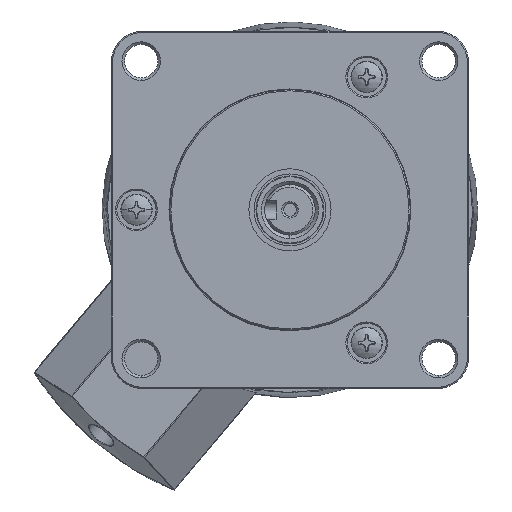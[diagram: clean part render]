
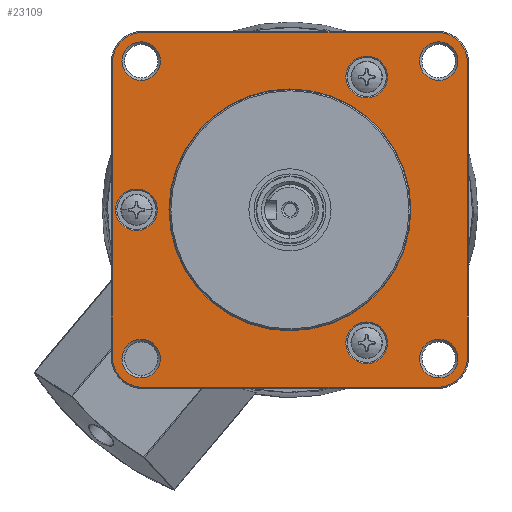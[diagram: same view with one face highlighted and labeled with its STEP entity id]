
A CAD part, left-side view. The second image highlights one B-rep face of the part: STEP entity #23109.
In plain terms, the highlighted planar face has unit normal (-1, 0, 0) as drawn and (0, 0, 1) by its records, which use the part's own axes.
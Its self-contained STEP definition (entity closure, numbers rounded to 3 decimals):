
#16756=CARTESIAN_POINT('',(-23.3,-23.3,19.));
#16757=DIRECTION('',(0.,0.,-1.));
#16758=DIRECTION('',(0.,-1.,0.));
#16759=AXIS2_PLACEMENT_3D('',#16756,#16757,#16758);
#16764=CARTESIAN_POINT('',(-23.3,23.3,19.));
#16765=DIRECTION('',(0.,0.,-1.));
#16766=DIRECTION('',(-1.,0.,0.));
#16767=AXIS2_PLACEMENT_3D('',#16764,#16765,#16766);
#16772=CARTESIAN_POINT('',(23.3,23.3,19.));
#16773=DIRECTION('',(0.,0.,-1.));
#16774=DIRECTION('',(0.,1.,0.));
#16775=AXIS2_PLACEMENT_3D('',#16772,#16773,#16774);
#16780=CARTESIAN_POINT('',(23.3,-23.3,19.));
#16781=DIRECTION('',(0.,0.,-1.));
#16782=DIRECTION('',(1.,0.,0.));
#16783=AXIS2_PLACEMENT_3D('',#16780,#16781,#16782);
#16788=CARTESIAN_POINT('',(-21.044,-12.15,19.));
#16789=DIRECTION('',(0.,0.,1.));
#16790=DIRECTION('',(-1.,0.,0.));
#16791=AXIS2_PLACEMENT_3D('',#16788,#16789,#16790);
#16796=CARTESIAN_POINT('',(-21.044,-12.15,19.));
#16797=DIRECTION('',(0.,0.,1.));
#16798=DIRECTION('',(1.,0.,0.));
#16799=AXIS2_PLACEMENT_3D('',#16796,#16797,#16798);
#16804=CARTESIAN_POINT('',(21.044,-12.15,19.));
#16805=DIRECTION('',(0.,0.,1.));
#16806=DIRECTION('',(-1.,0.,0.));
#16807=AXIS2_PLACEMENT_3D('',#16804,#16805,#16806);
#16812=CARTESIAN_POINT('',(21.044,-12.15,19.));
#16813=DIRECTION('',(0.,0.,1.));
#16814=DIRECTION('',(1.,0.,0.));
#16815=AXIS2_PLACEMENT_3D('',#16812,#16813,#16814);
#16820=CARTESIAN_POINT('',(0.,24.3,19.));
#16821=DIRECTION('',(0.,0.,1.));
#16822=DIRECTION('',(-1.,0.,0.));
#16823=AXIS2_PLACEMENT_3D('',#16820,#16821,#16822);
#16828=CARTESIAN_POINT('',(0.,24.3,19.));
#16829=DIRECTION('',(0.,0.,1.));
#16830=DIRECTION('',(1.,0.,0.));
#16831=AXIS2_PLACEMENT_3D('',#16828,#16829,#16830);
#16836=CARTESIAN_POINT('',(0.,0.,19.));
#16837=DIRECTION('',(0.,0.,1.));
#16838=DIRECTION('',(-1.,0.,0.));
#16839=AXIS2_PLACEMENT_3D('',#16836,#16837,#16838);
#16844=CARTESIAN_POINT('',(0.,0.,19.));
#16845=DIRECTION('',(0.,0.,1.));
#16846=DIRECTION('',(1.,0.,0.));
#16847=AXIS2_PLACEMENT_3D('',#16844,#16845,#16846);
#16852=CARTESIAN_POINT('',(23.55,-23.55,19.));
#16853=DIRECTION('',(0.,0.,1.));
#16854=DIRECTION('',(-1.,0.,0.));
#16855=AXIS2_PLACEMENT_3D('',#16852,#16853,#16854);
#16860=CARTESIAN_POINT('',(23.55,-23.55,19.));
#16861=DIRECTION('',(0.,0.,1.));
#16862=DIRECTION('',(1.,0.,0.));
#16863=AXIS2_PLACEMENT_3D('',#16860,#16861,#16862);
#16868=CARTESIAN_POINT('',(-23.55,-23.55,19.));
#16869=DIRECTION('',(0.,0.,1.));
#16870=DIRECTION('',(-1.,0.,0.));
#16871=AXIS2_PLACEMENT_3D('',#16868,#16869,#16870);
#16876=CARTESIAN_POINT('',(-23.55,-23.55,19.));
#16877=DIRECTION('',(0.,0.,1.));
#16878=DIRECTION('',(1.,0.,0.));
#16879=AXIS2_PLACEMENT_3D('',#16876,#16877,#16878);
#16884=CARTESIAN_POINT('',(-23.55,23.55,19.));
#16885=DIRECTION('',(0.,0.,1.));
#16886=DIRECTION('',(-1.,0.,0.));
#16887=AXIS2_PLACEMENT_3D('',#16884,#16885,#16886);
#16892=CARTESIAN_POINT('',(-23.55,23.55,19.));
#16893=DIRECTION('',(0.,0.,1.));
#16894=DIRECTION('',(1.,0.,0.));
#16895=AXIS2_PLACEMENT_3D('',#16892,#16893,#16894);
#16900=CARTESIAN_POINT('',(23.55,23.55,19.));
#16901=DIRECTION('',(0.,0.,1.));
#16902=DIRECTION('',(-1.,0.,0.));
#16903=AXIS2_PLACEMENT_3D('',#16900,#16901,#16902);
#16908=CARTESIAN_POINT('',(23.55,23.55,19.));
#16909=DIRECTION('',(0.,0.,1.));
#16910=DIRECTION('',(1.,0.,0.));
#16911=AXIS2_PLACEMENT_3D('',#16908,#16909,#16910);
#16916=DIRECTION('',(0.,-1.,0.));
#16917=VECTOR('',#16916,46.6);
#16918=CARTESIAN_POINT('',(-28.1,23.3,19.));
#16919=LINE('',#16918,#16917);
#16937=DIRECTION('',(-1.,0.,0.));
#16938=VECTOR('',#16937,46.6);
#16939=CARTESIAN_POINT('',(23.3,28.1,19.));
#16940=LINE('',#16939,#16938);
#18442=DIRECTION('',(0.,1.,0.));
#18443=VECTOR('',#18442,46.6);
#18444=CARTESIAN_POINT('',(28.1,-23.3,19.));
#18445=LINE('',#18444,#18443);
#18471=DIRECTION('',(1.,0.,0.));
#18472=VECTOR('',#18471,46.6);
#18473=CARTESIAN_POINT('',(-23.3,-28.1,19.));
#18474=LINE('',#18473,#18472);
#21963=CARTESIAN_POINT('',(-26.6,-23.55,19.));
#21964=VERTEX_POINT('',#21963);
#21965=CARTESIAN_POINT('',(-20.5,-23.55,19.));
#21966=VERTEX_POINT('',#21965);
#21967=CARTESIAN_POINT('',(-23.3,-28.1,19.));
#21968=CARTESIAN_POINT('',(-28.1,-23.3,19.));
#21969=VERTEX_POINT('',#21967);
#21970=VERTEX_POINT('',#21968);
#21971=CARTESIAN_POINT('',(-28.1,23.3,19.));
#21972=CARTESIAN_POINT('',(-23.3,28.1,19.));
#21973=VERTEX_POINT('',#21971);
#21974=VERTEX_POINT('',#21972);
#21975=CARTESIAN_POINT('',(23.3,28.1,19.));
#21976=CARTESIAN_POINT('',(28.1,23.3,19.));
#21977=VERTEX_POINT('',#21975);
#21978=VERTEX_POINT('',#21976);
#21979=CARTESIAN_POINT('',(28.1,-23.3,19.));
#21980=CARTESIAN_POINT('',(23.3,-28.1,19.));
#21981=VERTEX_POINT('',#21979);
#21982=VERTEX_POINT('',#21980);
#21983=CARTESIAN_POINT('',(-24.344,-12.15,19.));
#21984=CARTESIAN_POINT('',(-17.744,-12.15,19.));
#21985=VERTEX_POINT('',#21983);
#21986=VERTEX_POINT('',#21984);
#21987=CARTESIAN_POINT('',(17.744,-12.15,19.));
#21988=CARTESIAN_POINT('',(24.344,-12.15,19.));
#21989=VERTEX_POINT('',#21987);
#21990=VERTEX_POINT('',#21988);
#21991=CARTESIAN_POINT('',(-3.3,24.3,19.));
#21992=CARTESIAN_POINT('',(3.3,24.3,19.));
#21993=VERTEX_POINT('',#21991);
#21994=VERTEX_POINT('',#21992);
#21995=CARTESIAN_POINT('',(-19.15,0.,19.));
#21996=CARTESIAN_POINT('',(19.15,0.,19.));
#21997=VERTEX_POINT('',#21995);
#21998=VERTEX_POINT('',#21996);
#21999=CARTESIAN_POINT('',(20.5,-23.55,19.));
#22000=CARTESIAN_POINT('',(26.6,-23.55,19.));
#22001=VERTEX_POINT('',#21999);
#22002=VERTEX_POINT('',#22000);
#22003=CARTESIAN_POINT('',(-26.6,23.55,19.));
#22004=CARTESIAN_POINT('',(-20.5,23.55,19.));
#22005=VERTEX_POINT('',#22003);
#22006=VERTEX_POINT('',#22004);
#22007=CARTESIAN_POINT('',(20.5,23.55,19.));
#22008=CARTESIAN_POINT('',(26.6,23.55,19.));
#22009=VERTEX_POINT('',#22007);
#22010=VERTEX_POINT('',#22008);
#23040=CARTESIAN_POINT('',(0.,0.,19.));
#23041=DIRECTION('',(0.,0.,1.));
#23042=DIRECTION('',(1.,0.,0.));
#23043=AXIS2_PLACEMENT_3D('',#23040,#23041,#23042);
#23044=PLANE('',#23043);
#23046=ORIENTED_EDGE('',*,*,#23045,.T.);
#23048=ORIENTED_EDGE('',*,*,#23047,.F.);
#23050=ORIENTED_EDGE('',*,*,#23049,.T.);
#23052=ORIENTED_EDGE('',*,*,#23051,.F.);
#23054=ORIENTED_EDGE('',*,*,#23053,.T.);
#23056=ORIENTED_EDGE('',*,*,#23055,.F.);
#23058=ORIENTED_EDGE('',*,*,#23057,.T.);
#23060=ORIENTED_EDGE('',*,*,#23059,.F.);
#23061=EDGE_LOOP('',(#23046,#23048,#23050,#23052,#23054,#23056,#23058,#23060));
#23062=FACE_OUTER_BOUND('',#23061,.F.);
#23064=ORIENTED_EDGE('',*,*,#23063,.T.);
#23066=ORIENTED_EDGE('',*,*,#23065,.T.);
#23067=EDGE_LOOP('',(#23064,#23066));
#23068=FACE_BOUND('',#23067,.F.);
#23070=ORIENTED_EDGE('',*,*,#23069,.T.);
#23072=ORIENTED_EDGE('',*,*,#23071,.T.);
#23073=EDGE_LOOP('',(#23070,#23072));
#23074=FACE_BOUND('',#23073,.F.);
#23075=ORIENTED_EDGE('',*,*,#22996,.T.);
#23076=ORIENTED_EDGE('',*,*,#23021,.T.);
#23077=EDGE_LOOP('',(#23075,#23076));
#23078=FACE_BOUND('',#23077,.F.);
#23080=ORIENTED_EDGE('',*,*,#23079,.T.);
#23082=ORIENTED_EDGE('',*,*,#23081,.T.);
#23083=EDGE_LOOP('',(#23080,#23082));
#23084=FACE_BOUND('',#23083,.F.);
#23086=ORIENTED_EDGE('',*,*,#23085,.T.);
#23088=ORIENTED_EDGE('',*,*,#23087,.T.);
#23089=EDGE_LOOP('',(#23086,#23088));
#23090=FACE_BOUND('',#23089,.F.);
#23092=ORIENTED_EDGE('',*,*,#23091,.T.);
#23094=ORIENTED_EDGE('',*,*,#23093,.T.);
#23095=EDGE_LOOP('',(#23092,#23094));
#23096=FACE_BOUND('',#23095,.F.);
#23098=ORIENTED_EDGE('',*,*,#23097,.T.);
#23100=ORIENTED_EDGE('',*,*,#23099,.T.);
#23101=EDGE_LOOP('',(#23098,#23100));
#23102=FACE_BOUND('',#23101,.F.);
#23104=ORIENTED_EDGE('',*,*,#23103,.T.);
#23106=ORIENTED_EDGE('',*,*,#23105,.T.);
#23107=EDGE_LOOP('',(#23104,#23106));
#23108=FACE_BOUND('',#23107,.F.);
#16760=CIRCLE('',#16759,4.8);
#16768=CIRCLE('',#16767,4.8);
#16776=CIRCLE('',#16775,4.8);
#16784=CIRCLE('',#16783,4.8);
#16792=CIRCLE('',#16791,3.3);
#16800=CIRCLE('',#16799,3.3);
#16808=CIRCLE('',#16807,3.3);
#16816=CIRCLE('',#16815,3.3);
#16824=CIRCLE('',#16823,3.3);
#16832=CIRCLE('',#16831,3.3);
#16840=CIRCLE('',#16839,19.15);
#16848=CIRCLE('',#16847,19.15);
#16856=CIRCLE('',#16855,3.05);
#16864=CIRCLE('',#16863,3.05);
#16872=CIRCLE('',#16871,3.05);
#16880=CIRCLE('',#16879,3.05);
#16888=CIRCLE('',#16887,3.05);
#16896=CIRCLE('',#16895,3.05);
#16904=CIRCLE('',#16903,3.05);
#16912=CIRCLE('',#16911,3.05);
#22996=EDGE_CURVE('',#21993,#21994,#16824,.T.);
#23021=EDGE_CURVE('',#21994,#21993,#16832,.T.);
#23045=EDGE_CURVE('',#21969,#21970,#16760,.T.);
#23047=EDGE_CURVE('',#21973,#21970,#16919,.T.);
#23049=EDGE_CURVE('',#21973,#21974,#16768,.T.);
#23051=EDGE_CURVE('',#21977,#21974,#16940,.T.);
#23053=EDGE_CURVE('',#21977,#21978,#16776,.T.);
#23055=EDGE_CURVE('',#21981,#21978,#18445,.T.);
#23057=EDGE_CURVE('',#21981,#21982,#16784,.T.);
#23059=EDGE_CURVE('',#21969,#21982,#18474,.T.);
#23063=EDGE_CURVE('',#21985,#21986,#16792,.T.);
#23065=EDGE_CURVE('',#21986,#21985,#16800,.T.);
#23069=EDGE_CURVE('',#21989,#21990,#16808,.T.);
#23071=EDGE_CURVE('',#21990,#21989,#16816,.T.);
#23079=EDGE_CURVE('',#21997,#21998,#16840,.T.);
#23081=EDGE_CURVE('',#21998,#21997,#16848,.T.);
#23085=EDGE_CURVE('',#22001,#22002,#16856,.T.);
#23087=EDGE_CURVE('',#22002,#22001,#16864,.T.);
#23091=EDGE_CURVE('',#21964,#21966,#16872,.T.);
#23093=EDGE_CURVE('',#21966,#21964,#16880,.T.);
#23097=EDGE_CURVE('',#22005,#22006,#16888,.T.);
#23099=EDGE_CURVE('',#22006,#22005,#16896,.T.);
#23103=EDGE_CURVE('',#22009,#22010,#16904,.T.);
#23105=EDGE_CURVE('',#22010,#22009,#16912,.T.);
#23109=ADVANCED_FACE('',(#23062,#23068,#23074,#23078,#23084,#23090,#23096,
#23102,#23108),#23044,.T.);
